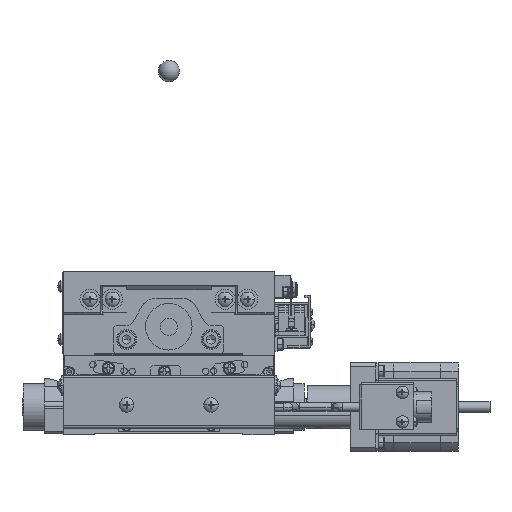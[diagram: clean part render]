
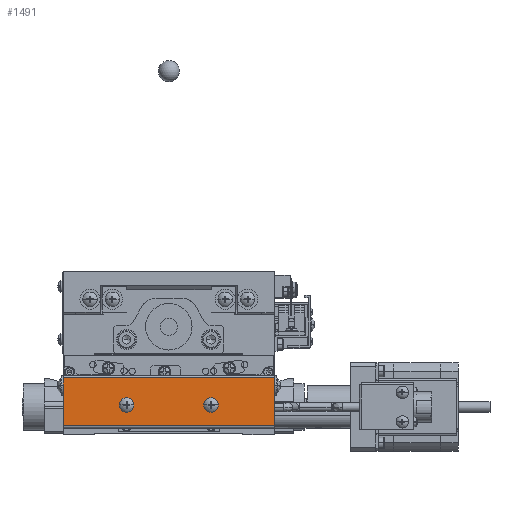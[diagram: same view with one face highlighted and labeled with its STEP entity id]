
A CAD part, front view. The second image highlights one B-rep face of the part: STEP entity #1491.
In plain terms, the highlighted planar face has unit normal (0, -1, 0).
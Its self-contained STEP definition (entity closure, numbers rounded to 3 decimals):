
#1491=ADVANCED_FACE('',(#18798,#18799,#18800),#18797,.T.);
#18797=PLANE('',#69188);
#18798=FACE_OUTER_BOUND('',#69189,.T.);
#18799=FACE_BOUND('',#69190,.T.);
#18800=FACE_BOUND('',#69191,.T.);
#69185=CARTESIAN_POINT('',(-60.,-67.2,1.94));
#69186=DIRECTION('',(0.,-1.,0.));
#69187=DIRECTION('',(1.,0.,0.));
#69188=AXIS2_PLACEMENT_3D('',#69185,#69186,#69187);
#69189=EDGE_LOOP('',(#101546,#101547,#101548,#101549));
#69190=EDGE_LOOP('',(#101550,#101551));
#69191=EDGE_LOOP('',(#101552,#101553));
#101546=ORIENTED_EDGE('',*,*,#126083,.F.);
#101547=ORIENTED_EDGE('',*,*,#126070,.T.);
#101548=ORIENTED_EDGE('',*,*,#126084,.T.);
#101549=ORIENTED_EDGE('',*,*,#126076,.T.);
#101550=ORIENTED_EDGE('',*,*,#126085,.F.);
#101551=ORIENTED_EDGE('',*,*,#126086,.F.);
#101552=ORIENTED_EDGE('',*,*,#126087,.F.);
#101553=ORIENTED_EDGE('',*,*,#126088,.F.);
#126070=EDGE_CURVE('',#160432,#160424,#160433,.T.);
#126076=EDGE_CURVE('',#160453,#160467,#160474,.T.);
#126083=EDGE_CURVE('',#160432,#160467,#160520,.T.);
#126084=EDGE_CURVE('',#160424,#160453,#160526,.T.);
#126085=EDGE_CURVE('',#160532,#160533,#160534,.T.);
#126086=EDGE_CURVE('',#160533,#160532,#160540,.T.);
#126087=EDGE_CURVE('',#160546,#160547,#160548,.T.);
#126088=EDGE_CURVE('',#160547,#160546,#160554,.T.);
#160424=VERTEX_POINT('',#244144);
#160432=VERTEX_POINT('',#244150);
#160433=LINE('',#244151,#244152);
#160453=VERTEX_POINT('',#244163);
#160467=VERTEX_POINT('',#244172);
#160474=LINE('',#244177,#244178);
#160520=LINE('',#244202,#244203);
#160526=LINE('',#244205,#244206);
#160532=VERTEX_POINT('',#244208);
#160533=VERTEX_POINT('',#244209);
#160534=CIRCLE('',#244213,3.45);
#160540=CIRCLE('',#244217,3.45);
#160546=VERTEX_POINT('',#244218);
#160547=VERTEX_POINT('',#244219);
#160548=CIRCLE('',#244223,3.45);
#160554=CIRCLE('',#244227,3.45);
#244144=CARTESIAN_POINT('',(-50.,-67.2,26.8));
#244150=CARTESIAN_POINT('',(50.,-67.2,26.8));
#244151=CARTESIAN_POINT('',(50.,-67.2,26.8));
#244152=VECTOR('',#244153,100.);
#244153=DIRECTION('',(-1.,0.,0.));
#244163=CARTESIAN_POINT('',(-50.,-67.2,4.2));
#244172=CARTESIAN_POINT('',(50.,-67.2,4.2));
#244177=CARTESIAN_POINT('',(-50.,-67.2,4.2));
#244178=VECTOR('',#244179,100.);
#244179=DIRECTION('',(1.,0.,0.));
#244202=CARTESIAN_POINT('',(50.,-67.2,26.8));
#244203=VECTOR('',#244204,22.6);
#244204=DIRECTION('',(0.,0.,-1.));
#244205=CARTESIAN_POINT('',(-50.,-67.2,26.8));
#244206=VECTOR('',#244207,22.6);
#244207=DIRECTION('',(0.,0.,-1.));
#244208=CARTESIAN_POINT('',(23.45,-67.2,14.));
#244209=CARTESIAN_POINT('',(16.55,-67.2,14.));
#244210=CARTESIAN_POINT('',(20.,-67.2,14.));
#244211=DIRECTION('',(0.,-1.,0.));
#244212=DIRECTION('',(-1.,0.,0.));
#244213=AXIS2_PLACEMENT_3D('',#244210,#244211,#244212);
#244214=CARTESIAN_POINT('',(20.,-67.2,14.));
#244215=DIRECTION('',(0.,-1.,0.));
#244216=DIRECTION('',(-1.,0.,0.));
#244217=AXIS2_PLACEMENT_3D('',#244214,#244215,#244216);
#244218=CARTESIAN_POINT('',(-16.55,-67.2,14.));
#244219=CARTESIAN_POINT('',(-23.45,-67.2,14.));
#244220=CARTESIAN_POINT('',(-20.,-67.2,14.));
#244221=DIRECTION('',(0.,-1.,0.));
#244222=DIRECTION('',(-1.,0.,0.));
#244223=AXIS2_PLACEMENT_3D('',#244220,#244221,#244222);
#244224=CARTESIAN_POINT('',(-20.,-67.2,14.));
#244225=DIRECTION('',(0.,-1.,0.));
#244226=DIRECTION('',(-1.,0.,0.));
#244227=AXIS2_PLACEMENT_3D('',#244224,#244225,#244226);
